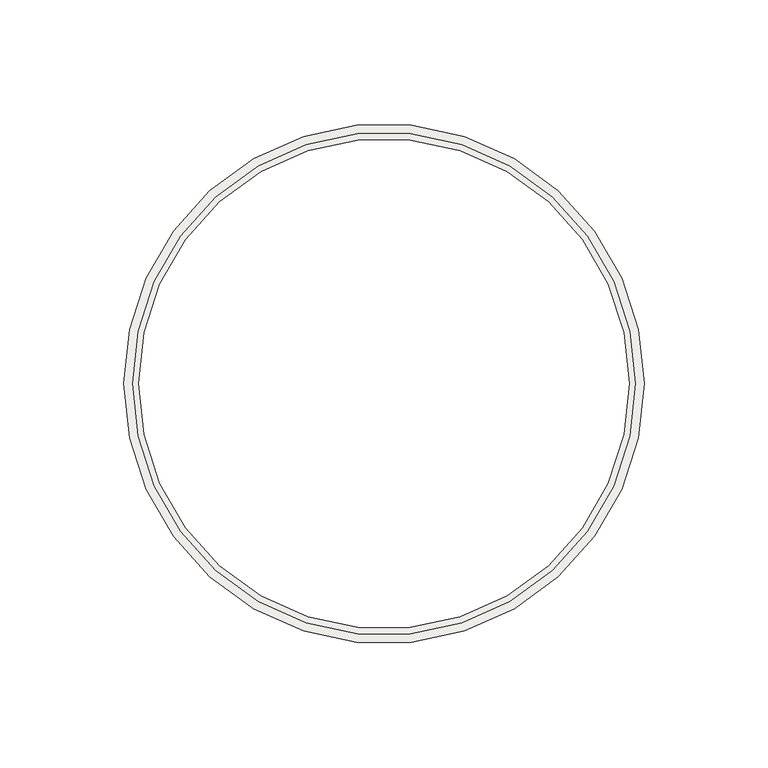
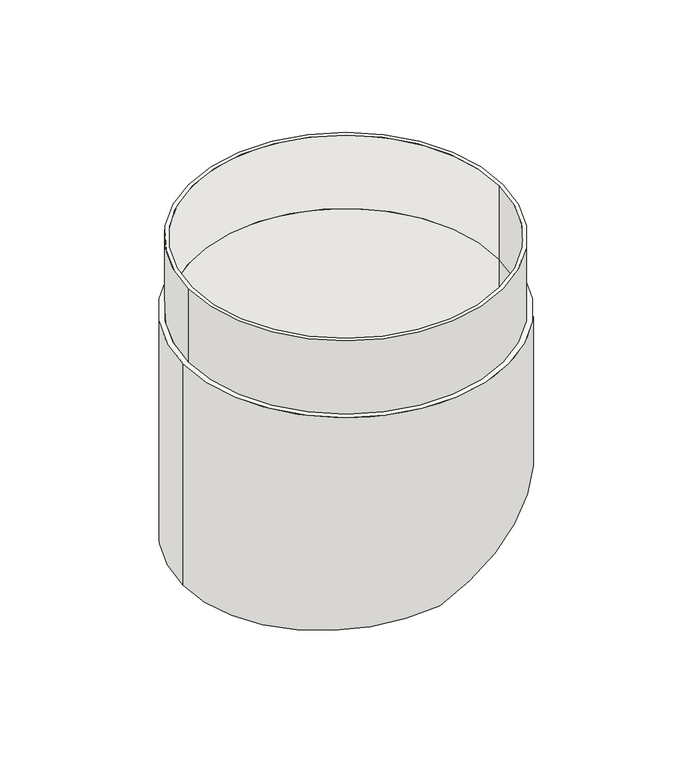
"""IFC4 building model written with IfcOpenShell, lengths in millimetres: covering geometry, NLRS_57_GM_WPB_adjustable collar_M&G : ø205 - Black."""

from ifc_helpers import new_model, si_unit, frame, origin, origin_with_axes, place, context, project, spatial, polyline, circle_curve, ellipse_curve, source, transform, mapped, element, save
from ifc_brep_helpers import plane_surface, cylinder_surface, revolved_surface, advanced_brep


def covering_9a535234(model_context):
    return source(origin(), model_context, "Body", "AdvancedBrep", [
        advanced_brep(
        [(-101.5, 0.0, 50.0), (101.5, 0.0, 50.0), (-99.0, 0.0, 50.0), (99.0, 0.0, 50.0), (-101.5, 0.0, 0.0), (101.5, 0.0, 0.0), (-99.0, 0.0, 0.0), (99.0, 0.0, 0.0), (-105.0, 0.0, 0.0), (105.0, 0.0, 0.0), (-105.0, 0.0, -151.0886176), (0.0, -105.0, -138.1962387), (105.0, 0.0, -93.626383), (0.0, 105.0, -138.1962387), (-99.0, 0.0, -150.3519102), (0.0, 99.0, -138.1962387), (99.0, 0.0, -96.1732319), (0.0, -99.0, -138.1962387)],
        [
            (0, 1, circle_curve(frame((0.0, 0.0, 50.0), z_axis=(0.0, 0.0, 1.0), x_axis=(1.0, 0.0, 0.0)), 101.5)),
            (1, 0, circle_curve(frame((0.0, 0.0, 50.0), z_axis=(0.0, 0.0, 1.0), x_axis=(1.0, 0.0, 0.0)), 101.5)),
            (2, 3, circle_curve(frame((0.0, 0.0, 50.0), z_axis=(0.0, 0.0, -1.0), x_axis=(1.0, 0.0, 0.0)), 99.0)),
            (3, 2, circle_curve(frame((0.0, 0.0, 50.0), z_axis=(0.0, 0.0, -1.0), x_axis=(1.0, 0.0, 0.0)), 99.0)),
            (0, 4),
            (4, 5, circle_curve(origin_with_axes(), 101.5)),
            (5, 1),
            (5, 4, circle_curve(origin_with_axes(), 101.5)),
            (2, 6),
            (6, 7, circle_curve(frame((0.0, 0.0, 0.0), z_axis=(0.0, 0.0, -1.0), x_axis=(1.0, 0.0, 0.0)), 99.0)),
            (7, 3),
            (7, 6, circle_curve(frame((0.0, 0.0, 0.0), z_axis=(0.0, 0.0, -1.0), x_axis=(1.0, 0.0, 0.0)), 99.0)),
            (8, 9, circle_curve(origin_with_axes(), 105.0)),
            (9, 8, circle_curve(origin_with_axes(), 105.0)),
            (8, 10),
            (10, 11, ellipse_curve(frame((0.0, 0.0, -138.1962387), z_axis=(-0.12186934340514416, 0.0, 0.9925461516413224), x_axis=(0.9925461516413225, 0.0, 0.12186934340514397)), 105.7885317, 105.0)),
            (11, 12, ellipse_curve(frame((0.0, 0.0, -138.1962387), z_axis=(-0.39073112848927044, 0.0, 0.9205048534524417), x_axis=(0.9205048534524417, 0.0, 0.3907311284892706)), 114.0678396, 105.0)),
            (12, 9),
            (12, 13, ellipse_curve(frame((0.0, 0.0, -138.1962387), z_axis=(-0.39073112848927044, 0.0, 0.9205048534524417), x_axis=(0.9205048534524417, 0.0, 0.3907311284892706)), 114.0678396, 105.0)),
            (13, 10, ellipse_curve(frame((0.0, 0.0, -138.1962387), z_axis=(-0.12186934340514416, 0.0, 0.9925461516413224), x_axis=(0.9925461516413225, 0.0, 0.12186934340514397)), 105.7885317, 105.0)),
            (6, 14),
            (14, 15, ellipse_curve(frame((0.0, 0.0, -138.1962387), z_axis=(0.12186934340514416, 0.0, -0.9925461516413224), x_axis=(-0.9925461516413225, 0.0, -0.12186934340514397)), 99.7434727, 99.0)),
            (15, 16, ellipse_curve(frame((0.0, 0.0, -138.1962387), z_axis=(0.39073112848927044, 0.0, -0.9205048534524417), x_axis=(-0.9205048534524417, 0.0, -0.3907311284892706)), 107.5496774, 99.0)),
            (16, 7),
            (16, 17, ellipse_curve(frame((0.0, 0.0, -138.1962387), z_axis=(0.39073112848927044, 0.0, -0.9205048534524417), x_axis=(-0.9205048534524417, 0.0, -0.3907311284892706)), 107.5496774, 99.0)),
            (17, 14, ellipse_curve(frame((0.0, 0.0, -138.1962387), z_axis=(0.12186934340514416, 0.0, -0.9925461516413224), x_axis=(-0.9925461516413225, 0.0, -0.12186934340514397)), 99.7434727, 99.0)),
            (15, 13),
            (11, 17),
        ],
        [
            plane_surface(frame((101.5, 0.0, 50.0), z_axis=(0.0, 0.0, 1.0), x_axis=(0.0, 1.0, 0.0))),
            cylinder_surface(origin_with_axes(), 101.5),
            revolved_surface(polyline([(99.0, 0.0, 0.0), (99.0, 0.0, 50.0)]), (0.0, 0.0, 0.0), (0.0, 0.0, -1.0)),
            plane_surface(frame((105.0, 0.0, 0.0), z_axis=(0.0, 0.0, 1.0), x_axis=(0.0, 1.0, 0.0))),
            cylinder_surface(frame((0.0, 0.0, -156.0), z_axis=(0.0, 0.0, 1.0), x_axis=(1.0, 0.0, 0.0)), 105.0),
            revolved_surface(polyline([(99.0, 0.0, -180.21924551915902), (99.0, 0.0, 0.0)]), (0.0, 0.0, 0.0), (0.0, 0.0, -1.0)),
            plane_surface(frame((215.0, -180.0, -46.9341532), z_axis=(0.39073112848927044, 0.0, -0.9205048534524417), x_axis=(0.0, 1.0, 0.0))),
            plane_surface(frame((0.0, -180.0, -138.1962387), z_axis=(0.12186934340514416, 0.0, -0.9925461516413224), x_axis=(0.0, 1.0, 0.0))),
        ],
        [
            (0, [[1, 2], [3, 4]]),
            (1, [[-1, 5, 6, 7]]),
            (1, [[-2, -7, 8, -5]]),
            (2, [[-3, 9, 10, 11]]),
            (2, [[-4, -11, 12, -9]]),
            (3, [[13, 14], [-6, -8]]),
            (4, [[-13, 15, 16, 17, 18]]),
            (4, [[-14, -18, 19, 20, -15]]),
            (5, [[21, 22, 23, 24, -10]]),
            (5, [[-21, -12, -24, 25, 26]]),
            (6, [[27, -19, -17, 28, -25, -23]]),
            (7, [[-27, -22, -26, -28, -16, -20]]),
        ],
    ),
    ])


if __name__ == "__main__":
    model = new_model("IFC4")
    model_context = context("Model", 3, world=origin())
    ifc_project = project(units=[si_unit("LENGTHUNIT", "METRE", prefix="MILLI")], contexts=[model_context])
    site = spatial("IfcSite", under=ifc_project)
    building = spatial("IfcBuilding", under=site)
    placement = place(None, origin())
    covering_shape = covering_9a535234(model_context)
    element("IfcCovering", 1, ObjectType="NLRS_57_GM_WPB_adjustable collar_M&G : ø205 - Black", at=placement, inside=building, context=model_context, shape_type="MappedRepresentation", body=[
        mapped(covering_shape, transform((0.0, 0.0, 0.0), x_axis=(1.0, 0.0, 0.0), y_axis=(0.0, 1.0, 0.0), z_axis=(0.0, 0.0, 1.0))),
    ])
    save(model, "model.ifc")
